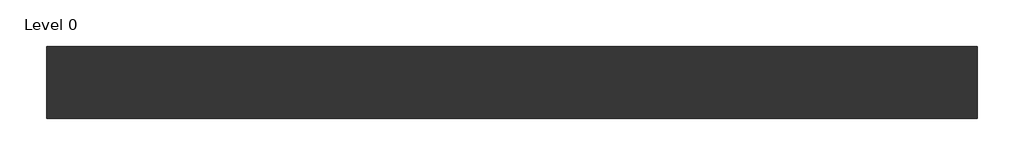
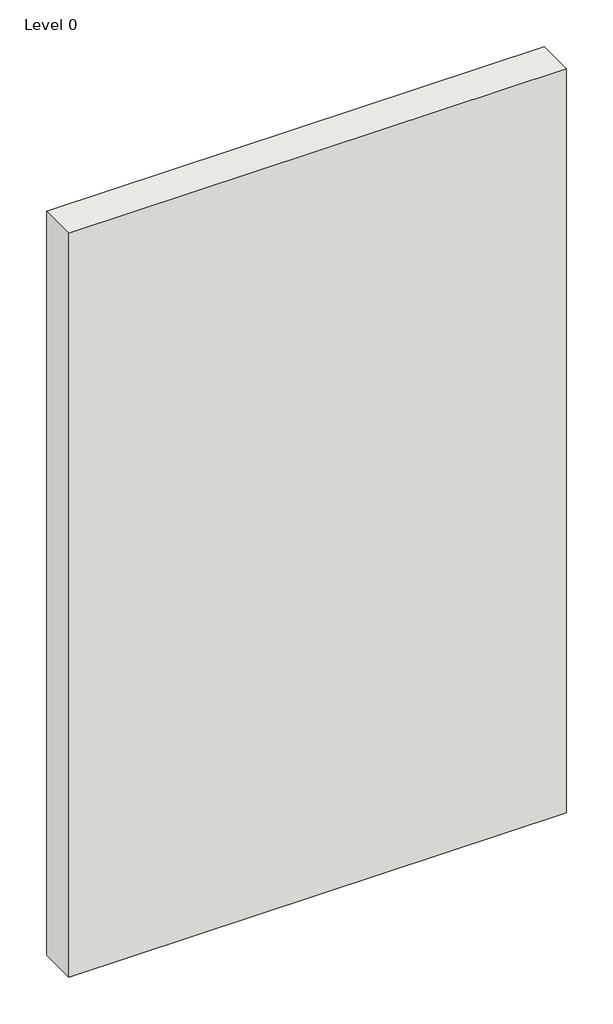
# One storey: 1 wall.
"""IFC4 building model written with IfcOpenShell, lengths in millimetres."""

from ifc_helpers import new_model, si_unit, origin, origin_with_axes, place, context, project, spatial, polyline, outline, extrude, element, save

model = new_model("IFC4")

# Units and contexts
model_context = context("Model", 3, world=origin())
ifc_project = project(units=[si_unit("LENGTHUNIT", "METRE", prefix="MILLI")], contexts=[model_context])

# Site, building, storey
site = spatial("IfcSite", under=ifc_project)
building = spatial("IfcBuilding", under=site)
storey = spatial("IfcBuildingStorey", under=building, Name="Level 0", Elevation=0.0)

# Wall
placement = place(None, origin())
element("IfcWall", 1, ObjectType="A206256 - GypWall FireWall", at=placement, inside=storey, context=model_context, shape_type="SweptSolid", body=[
    extrude(outline(polyline([(1155.997948, 435.2669953), (-1944.002052, 435.2669953), (-1944.002052, 675.2669953), (1155.997948, 675.2669953), (1155.997948, 435.2669953)])), origin_with_axes(), (0.0, 0.0, 1.0), 4900.0),
])

save(model, "model.ifc")
